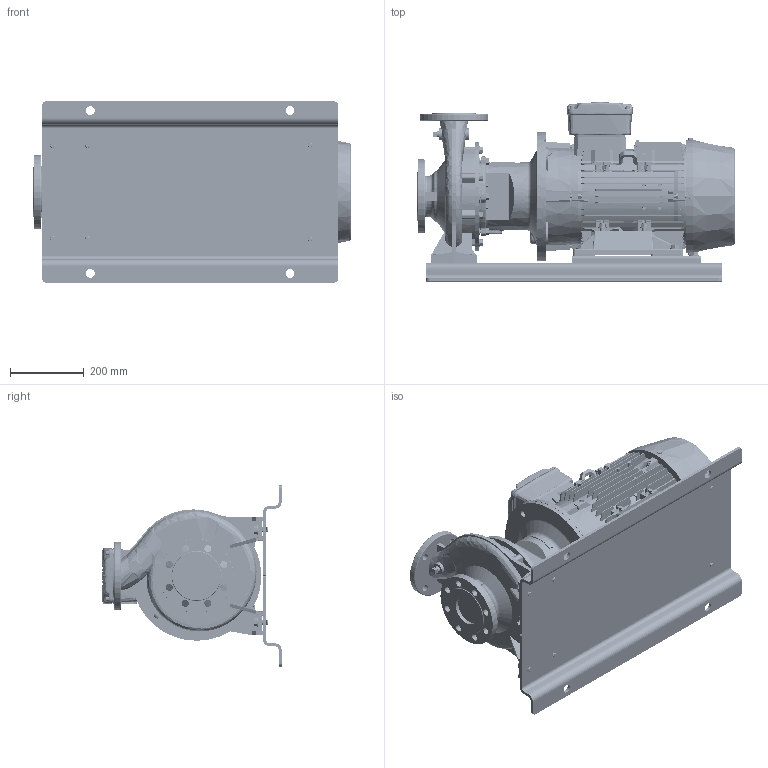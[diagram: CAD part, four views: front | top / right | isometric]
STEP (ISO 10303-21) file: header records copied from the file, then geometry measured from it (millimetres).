
FILE_DESCRIPTION (( 'STEP AP214' ), '1' );
FILE_NAME ('GSD2 65-200_15.0 & 18.5_(160ML)_W21_BP.STEP', '2024-07-31T01:03:16', ( '' ), ( '' ), 'SwSTEP 2.0', 'SolidWorks 2019', '' );
FILE_SCHEMA (( 'AUTOMOTIVE_DESIGN' ));
Length unit declared in the file: millimetre
Products named in the file (18): 210_254 x 20 - 271472113; Parametric bolt and washer_SFT-A301B; Parametric bolt and washer_SFT-A299B; GSD2  65-200_15.0 & 18.5_(160ML)_W21_BP; Parametric bolt_SFT-A299B; 65-200-160M_L_______; 160M_L_ALIE3_W21T_B35; Parametric Flat Washer_M12; N5S3 GSDA-535 F1-1832926-00; Parametric bolt_SFT-A301B
Assembly tree (35 placements, depth 3):
  GSD2  65-200_15.0 & 18.5_(160ML)_W21_BP
    65-200-160M_L_______
    N5S3 GSDA-535 F1-1832926-00
    210_254 x 20 - 271472113  x2
    Parametric bolt and washer_SFT-A299B
      Parametric bolt_SFT-A299B
      Parametric Flat Washer_M12
    Parametric bolt and washer_SFT-A299B
      Parametric bolt_SFT-A299B
      Parametric Flat Washer_M12
    Parametric bolt and washer_SFT-A301B
      Parametric bolt_SFT-A301B
      Parametric Flat Washer_M12
    Parametric bolt and washer_SFT-A299B
      Parametric bolt_SFT-A299B
      Parametric Flat Washer_M12
    Parametric bolt and washer_SFT-A299B
      Parametric bolt_SFT-A299B
      Parametric Flat Washer_M12
    Parametric bolt and washer_SFT-A301B
      Parametric bolt_SFT-A301B
      Parametric Flat Washer_M12
    Parametric bolt and washer_SFT-A301B
      Parametric bolt_SFT-A301B
      Parametric Flat Washer_M12
    Parametric bolt and washer_SFT-A301B
      Parametric bolt_SFT-A301B
      Parametric Flat Washer_M12
    Parametric bolt and washer_SFT-A301B
      Parametric bolt_SFT-A301B
      Parametric Flat Washer_M12
    Parametric bolt and washer_SFT-A301B
      Parametric bolt_SFT-A301B
      Parametric Flat Washer_M12
    160M_L_ALIE3_W21T_B35
Bounding box: 860.3 x 484.53 x 490 mm (x, y, z)
Volume: 48669349.8 mm3; surface area: 3844662.3 mm2
Topology: 54 solids, 60 shells, 6340 faces, 16382 edges, 10600 vertices
Faces by surface type: plane 3796, cylinder 1262, cone 598, bspline 432, torus 236, sphere 16
Entity records: 272792 total; most frequent: CARTESIAN_POINT 83417, ORIENTED_EDGE 30114, DIRECTION 25622, EDGE_CURVE 15057, VERTEX_POINT 9753, VECTOR 9560, LINE 9560, AXIS2_PLACEMENT_3D 8031
